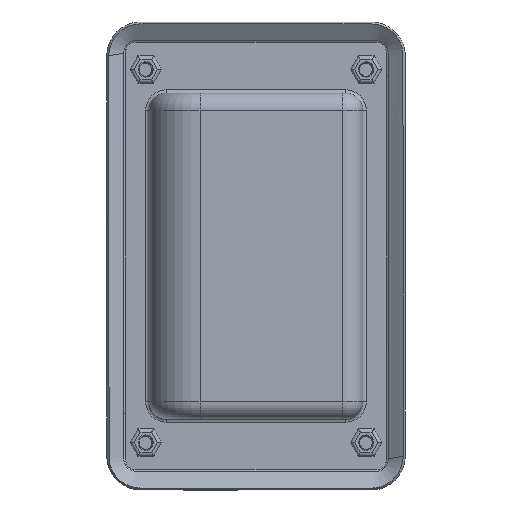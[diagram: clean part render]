
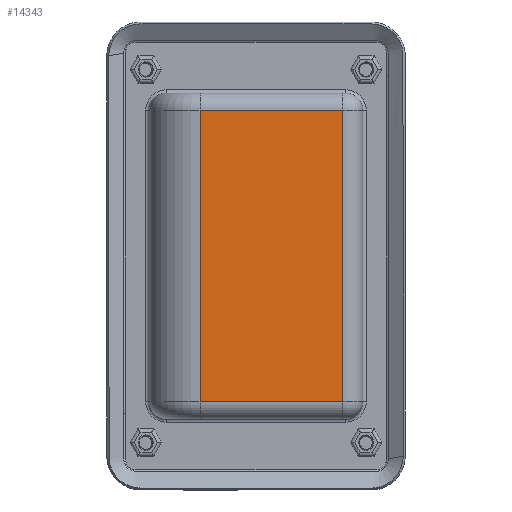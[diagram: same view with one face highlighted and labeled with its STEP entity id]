
A CAD part, front view. The second image highlights one B-rep face of the part: STEP entity #14343.
In plain terms, the highlighted planar face has unit normal (0, -1, 0).
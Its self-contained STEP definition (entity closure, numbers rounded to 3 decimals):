
#94 = CARTESIAN_POINT ( 'NONE',  ( 0., 0., -43. ) ) ;
#1074 = DIRECTION ( 'NONE',  ( -1., 0., 0. ) ) ;
#2526 = DIRECTION ( 'NONE',  ( 0., 0., 1. ) ) ;
#3558 = LINE ( 'NONE', #14638, #5299 ) ;
#5299 = VECTOR ( 'NONE', #1074, 1000. ) ;
#6766 = ORIENTED_EDGE ( 'NONE', *, *, #13737, .F. ) ;
#7164 = VERTEX_POINT ( 'NONE', #13927 ) ;
#7241 = VERTEX_POINT ( 'NONE', #9695 ) ;
#7344 = DIRECTION ( 'NONE',  ( 0., 0., 1. ) ) ;
#7598 = EDGE_CURVE ( 'NONE', #7241, #7164, #3558, .T. ) ;
#9008 = DIRECTION ( 'NONE',  ( 1., 0., 0. ) ) ;
#9695 = CARTESIAN_POINT ( 'NONE',  ( 25.5, 0., 43. ) ) ;
#10481 = EDGE_CURVE ( 'NONE', #20100, #7241, #27334, .T. ) ;
#10668 = DIRECTION ( 'NONE',  ( 0., 1., 0. ) ) ;
#10694 = VERTEX_POINT ( 'NONE', #16102 ) ;
#10865 = ORIENTED_EDGE ( 'NONE', *, *, #26527, .T. ) ;
#13708 = VECTOR ( 'NONE', #2526, 1000. ) ;
#13737 = EDGE_CURVE ( 'NONE', #10694, #7164, #22660, .T. ) ;
#13759 = CARTESIAN_POINT ( 'NONE',  ( -16.5, 0., -48. ) ) ;
#13927 = CARTESIAN_POINT ( 'NONE',  ( -16.5, 0., 43. ) ) ;
#14343 = ADVANCED_FACE ( 'NONE', ( #21759 ), #26284, .F. ) ;
#14638 = CARTESIAN_POINT ( 'NONE',  ( 0., 0., 43. ) ) ;
#16102 = CARTESIAN_POINT ( 'NONE',  ( -16.5, 0., -43. ) ) ;
#18935 = EDGE_LOOP ( 'NONE', ( #6766, #10865, #28530, #21899 ) ) ;
#20100 = VERTEX_POINT ( 'NONE', #20481 ) ;
#20327 = CARTESIAN_POINT ( 'NONE',  ( 25.5, 0., -48. ) ) ;
#20481 = CARTESIAN_POINT ( 'NONE',  ( 25.5, 0., -43. ) ) ;
#21759 = FACE_OUTER_BOUND ( 'NONE', #18935, .T. ) ;
#21899 = ORIENTED_EDGE ( 'NONE', *, *, #7598, .T. ) ;
#22016 = VECTOR ( 'NONE', #7344, 1000. ) ;
#22148 = LINE ( 'NONE', #94, #23111 ) ;
#22660 = LINE ( 'NONE', #13759, #13708 ) ;
#23111 = VECTOR ( 'NONE', #9008, 1000. ) ;
#23512 = DIRECTION ( 'NONE',  ( 0., 0., 1. ) ) ;
#23660 = CARTESIAN_POINT ( 'NONE',  ( 0., 0., 0. ) ) ;
#25814 = AXIS2_PLACEMENT_3D ( 'NONE', #23660, #10668, #23512 ) ;
#26284 = PLANE ( 'NONE',  #25814 ) ;
#26527 = EDGE_CURVE ( 'NONE', #10694, #20100, #22148, .T. ) ;
#27334 = LINE ( 'NONE', #20327, #22016 ) ;
#28530 = ORIENTED_EDGE ( 'NONE', *, *, #10481, .T. ) ;
